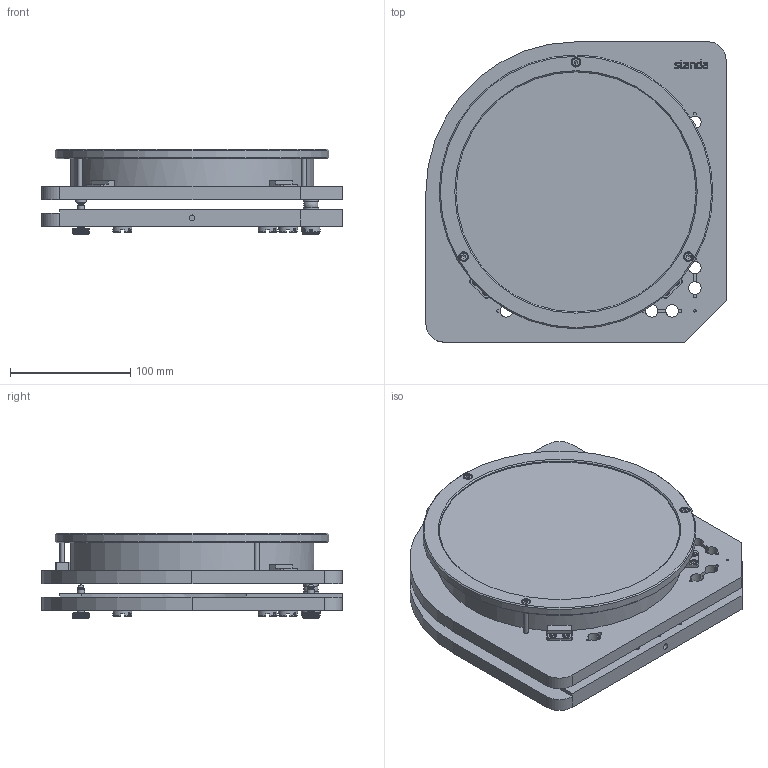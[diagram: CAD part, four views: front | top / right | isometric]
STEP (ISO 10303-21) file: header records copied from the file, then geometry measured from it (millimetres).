
FILE_DESCRIPTION(/* description */ (''),/* implementation_level */ '2;1');
FILE_NAME(/* name */ 'U:\KONSTRUKTORIAI\DOKUMENTACIJA\5\5LAM126-8\STEP\5LAM126-8-38 SB.stp',/* time_stamp */ '2021-03-22T13:56:56+02:00',/* author */ ('dsgn32'),/* organization */ (''),/* preprocessor_version */ 'ST-DEVELOPER v15.2',/* originating_system */ 'Autodesk Inventor 2014',/* authorisation */ '');
FILE_SCHEMA (('AUTOMOTIVE_DESIGN { 1 0 10303 214 3 1 1 }'));
Products named in the file (1): 5LAM126-8-38 SB
Bounding box: 250 x 250 x 71.01 mm (x, y, z)
Volume: 1887566.3 mm3; surface area: 277983 mm2
Topology: 3 solids, 23 shells, 2398 faces, 6672 edges, 4418 vertices
Faces by surface type: plane 1083, cylinder 968, bspline 198, cone 104, torus 34, sphere 11
Full cylindrical faces by diameter (mm): 1.5 x2, 2 x4, 2.459 x14, 2.5 x12, 3 x16, 3.1 x2, 3.242 x11, 3.5 x12, 4 x3, 4.5 x3, 4.6 x2, 4.917 x2, 5.5 x14, 6 x16, 7 x3, 8 x3, 10 x1, 10.2 x2, 10.5 x6, 11.5 x6, 12 x2, 13 x2, 14.917 x6, 16 x6, 16.1 x2, 18 x2, 24 x2, 44 x2, 45 x2, 200 x1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
Entity records: 82068 total; most frequent: CARTESIAN_POINT 23687, ORIENTED_EDGE 12526, DIRECTION 10270, EDGE_CURVE 6258, VERTEX_POINT 4294, AXIS2_PLACEMENT_3D 3787, EDGE_LOOP 2913, LINE 2696
